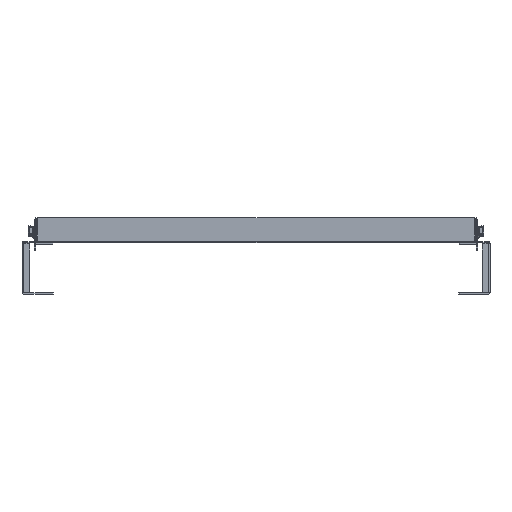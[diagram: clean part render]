
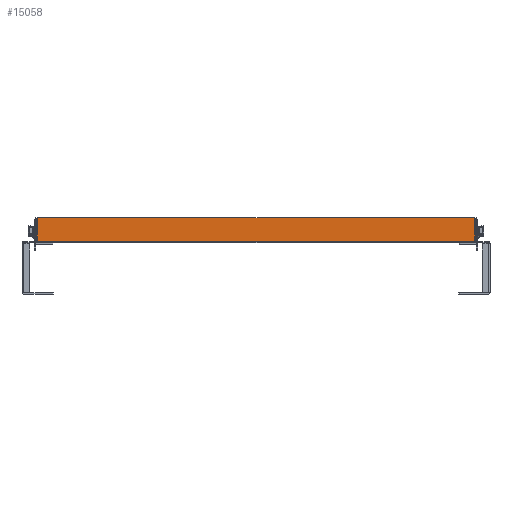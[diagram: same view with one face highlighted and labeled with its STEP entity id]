
A CAD part, front view. The second image highlights one B-rep face of the part: STEP entity #15058.
In plain terms, the highlighted planar face has unit normal (0, -1, 0) as drawn and (0, 1, 0) by its records, which use the part's own axes.
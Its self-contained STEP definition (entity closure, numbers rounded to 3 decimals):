
#299 = PLANE ( 'NONE',  #36135 ) ;
#387 = LINE ( 'NONE', #11525, #22484 ) ;
#763 = LINE ( 'NONE', #3850, #17164 ) ;
#1046 = VERTEX_POINT ( 'NONE', #33550 ) ;
#1176 = LINE ( 'NONE', #17429, #11289 ) ;
#2445 = EDGE_CURVE ( 'NONE', #9485, #29248, #29223, .T. ) ;
#2757 = EDGE_CURVE ( 'NONE', #25857, #8197, #22928, .T. ) ;
#2813 = CARTESIAN_POINT ( 'NONE',  ( 13.835, 1.5, 277. ) ) ;
#3048 = DIRECTION ( 'NONE',  ( 0., -1., 0. ) ) ;
#3294 = VECTOR ( 'NONE', #9892, 1000. ) ;
#3413 = CARTESIAN_POINT ( 'NONE',  ( -13.735, 1.5, -279. ) ) ;
#3850 = CARTESIAN_POINT ( 'NONE',  ( -15.835, 1.5, -279. ) ) ;
#4509 = VERTEX_POINT ( 'NONE', #3413 ) ;
#4827 = ORIENTED_EDGE ( 'NONE', *, *, #2445, .T. ) ;
#7394 = CARTESIAN_POINT ( 'NONE',  ( -15.835, 1.5, 279. ) ) ;
#7460 = ORIENTED_EDGE ( 'NONE', *, *, #29555, .T. ) ;
#8197 = VERTEX_POINT ( 'NONE', #34545 ) ;
#9145 = CARTESIAN_POINT ( 'NONE',  ( 13.4, 1.5, -279. ) ) ;
#9485 = VERTEX_POINT ( 'NONE', #20476 ) ;
#9555 = DIRECTION ( 'NONE',  ( 0., 1., 0. ) ) ;
#9708 = VERTEX_POINT ( 'NONE', #27247 ) ;
#9746 = DIRECTION ( 'NONE',  ( -1., 0., 0. ) ) ;
#9788 = CARTESIAN_POINT ( 'NONE',  ( -13.4, 1.5, 279. ) ) ;
#9877 = EDGE_CURVE ( 'NONE', #22699, #26388, #387, .T. ) ;
#9892 = DIRECTION ( 'NONE',  ( 0., 0., -1. ) ) ;
#10067 = LINE ( 'NONE', #26149, #3294 ) ;
#10717 = DIRECTION ( 'NONE',  ( 1., 0., 0. ) ) ;
#10760 = EDGE_CURVE ( 'NONE', #25857, #9708, #29025, .T. ) ;
#11227 = ORIENTED_EDGE ( 'NONE', *, *, #10760, .T. ) ;
#11289 = VECTOR ( 'NONE', #9746, 1000. ) ;
#11525 = CARTESIAN_POINT ( 'NONE',  ( 15.835, 1.5, 279. ) ) ;
#11941 = DIRECTION ( 'NONE',  ( 1., 0., 0. ) ) ;
#12030 = CIRCLE ( 'NONE', #32456, 2. ) ;
#12297 = CARTESIAN_POINT ( 'NONE',  ( 13.835, 1.5, -277. ) ) ;
#13476 = ORIENTED_EDGE ( 'NONE', *, *, #35948, .F. ) ;
#13703 = DIRECTION ( 'NONE',  ( -1., 0., 0. ) ) ;
#14124 = DIRECTION ( 'NONE',  ( 1., 0., 0. ) ) ;
#15058 = ADVANCED_FACE ( 'NONE', ( #19646 ), #299, .F. ) ;
#15163 = CARTESIAN_POINT ( 'NONE',  ( -13.4, 1.5, 279. ) ) ;
#15367 = DIRECTION ( 'NONE',  ( -1., 0., 0. ) ) ;
#16338 = VECTOR ( 'NONE', #35726, 1000. ) ;
#17164 = VECTOR ( 'NONE', #20819, 1000. ) ;
#17429 = CARTESIAN_POINT ( 'NONE',  ( -15.835, 1.5, -279. ) ) ;
#17981 = ORIENTED_EDGE ( 'NONE', *, *, #32553, .T. ) ;
#18503 = ORIENTED_EDGE ( 'NONE', *, *, #19258, .F. ) ;
#18664 = ORIENTED_EDGE ( 'NONE', *, *, #9877, .T. ) ;
#19258 = EDGE_CURVE ( 'NONE', #1046, #9708, #26755, .T. ) ;
#19646 = FACE_OUTER_BOUND ( 'NONE', #23724, .T. ) ;
#19925 = VECTOR ( 'NONE', #13703, 1000. ) ;
#20179 = VECTOR ( 'NONE', #34539, 1000. ) ;
#20476 = CARTESIAN_POINT ( 'NONE',  ( 13.4, 1.5, -279. ) ) ;
#20819 = DIRECTION ( 'NONE',  ( -1., 0., 0. ) ) ;
#21901 = CARTESIAN_POINT ( 'NONE',  ( -15.835, 1.5, 279. ) ) ;
#21916 = CARTESIAN_POINT ( 'NONE',  ( 15.835, 1.5, -277. ) ) ;
#21979 = VERTEX_POINT ( 'NONE', #34701 ) ;
#22484 = VECTOR ( 'NONE', #22650, 1000. ) ;
#22650 = DIRECTION ( 'NONE',  ( 0., 0., -1. ) ) ;
#22699 = VERTEX_POINT ( 'NONE', #23464 ) ;
#22928 = LINE ( 'NONE', #21901, #19925 ) ;
#23109 = ORIENTED_EDGE ( 'NONE', *, *, #2757, .F. ) ;
#23464 = CARTESIAN_POINT ( 'NONE',  ( 15.835, 1.5, 277. ) ) ;
#23724 = EDGE_LOOP ( 'NONE', ( #18503, #33914, #18664, #7460, #26723, #4827, #17981, #13476, #23109, #11227 ) ) ;
#24047 = VECTOR ( 'NONE', #15367, 1000. ) ;
#24420 = EDGE_CURVE ( 'NONE', #21979, #9485, #1176, .T. ) ;
#25857 = VERTEX_POINT ( 'NONE', #9788 ) ;
#26149 = CARTESIAN_POINT ( 'NONE',  ( -13.735, 1.5, 279. ) ) ;
#26388 = VERTEX_POINT ( 'NONE', #21916 ) ;
#26723 = ORIENTED_EDGE ( 'NONE', *, *, #24420, .T. ) ;
#26755 = LINE ( 'NONE', #7394, #16338 ) ;
#26938 = CARTESIAN_POINT ( 'NONE',  ( -13.4, 1.5, -279. ) ) ;
#27247 = CARTESIAN_POINT ( 'NONE',  ( 13.4, 1.5, 279. ) ) ;
#27991 = DIRECTION ( 'NONE',  ( 0., 1., 0. ) ) ;
#28052 = CARTESIAN_POINT ( 'NONE',  ( -15.835, 1.5, 279. ) ) ;
#29025 = LINE ( 'NONE', #15163, #20179 ) ;
#29223 = LINE ( 'NONE', #9145, #24047 ) ;
#29248 = VERTEX_POINT ( 'NONE', #26938 ) ;
#29555 = EDGE_CURVE ( 'NONE', #26388, #21979, #29894, .T. ) ;
#29894 = CIRCLE ( 'NONE', #35763, 2. ) ;
#32456 = AXIS2_PLACEMENT_3D ( 'NONE', #2813, #27991, #14124 ) ;
#32553 = EDGE_CURVE ( 'NONE', #29248, #4509, #763, .T. ) ;
#33550 = CARTESIAN_POINT ( 'NONE',  ( 13.835, 1.5, 279. ) ) ;
#33914 = ORIENTED_EDGE ( 'NONE', *, *, #35893, .T. ) ;
#34539 = DIRECTION ( 'NONE',  ( 1., 0., 0. ) ) ;
#34545 = CARTESIAN_POINT ( 'NONE',  ( -13.735, 1.5, 279. ) ) ;
#34701 = CARTESIAN_POINT ( 'NONE',  ( 13.835, 1.5, -279. ) ) ;
#35726 = DIRECTION ( 'NONE',  ( -1., 0., 0. ) ) ;
#35763 = AXIS2_PLACEMENT_3D ( 'NONE', #12297, #9555, #11941 ) ;
#35893 = EDGE_CURVE ( 'NONE', #1046, #22699, #12030, .T. ) ;
#35948 = EDGE_CURVE ( 'NONE', #8197, #4509, #10067, .T. ) ;
#36135 = AXIS2_PLACEMENT_3D ( 'NONE', #28052, #3048, #10717 ) ;
